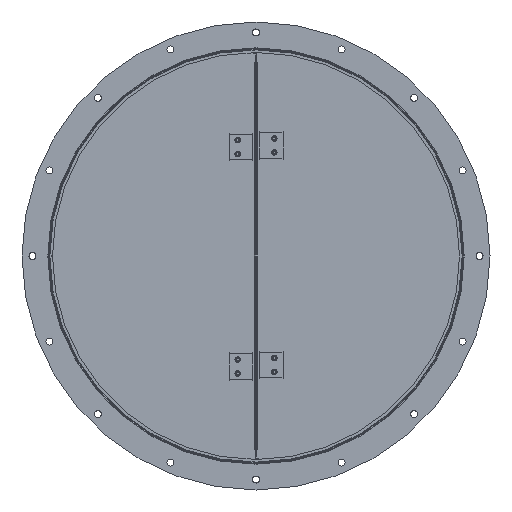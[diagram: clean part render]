
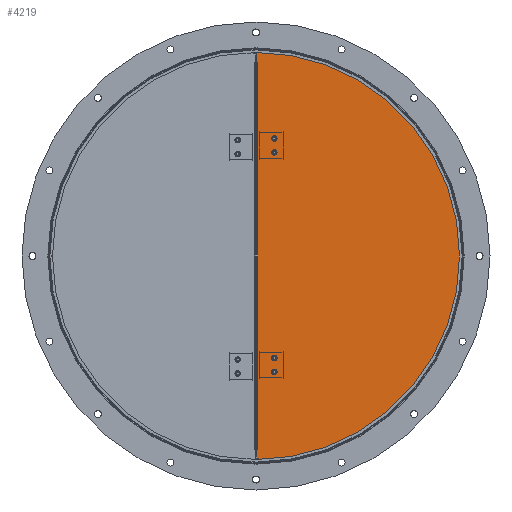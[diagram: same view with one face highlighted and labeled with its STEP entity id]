
A CAD part, left-side view. The second image highlights one B-rep face of the part: STEP entity #4219.
In plain terms, the highlighted planar face has unit normal (-1, 0, 0) as drawn and (0, 0, -1) by its records, which use the part's own axes.
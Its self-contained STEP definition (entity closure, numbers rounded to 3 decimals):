
#368=FACE_BOUND('',#1217,.T.);
#369=FACE_BOUND('',#1218,.T.);
#370=FACE_BOUND('',#1219,.T.);
#371=FACE_BOUND('',#1220,.T.);
#597=PLANE('',#5068);
#835=FACE_OUTER_BOUND('',#1216,.T.);
#1216=EDGE_LOOP('',(#3716,#3717,#3718,#3719,#3720,#3721,#3722,#3723,#3724,
#3725,#3726));
#1217=EDGE_LOOP('',(#3727));
#1218=EDGE_LOOP('',(#3728));
#1219=EDGE_LOOP('',(#3729));
#1220=EDGE_LOOP('',(#3730));
#1478=LINE('',#7846,#1695);
#1500=LINE('',#7909,#1717);
#1501=LINE('',#7912,#1718);
#1504=LINE('',#7919,#1721);
#1505=LINE('',#7924,#1722);
#1506=LINE('',#7926,#1723);
#1507=LINE('',#7929,#1724);
#1695=VECTOR('',#6156,10.);
#1717=VECTOR('',#6224,10.);
#1718=VECTOR('',#6227,10.);
#1721=VECTOR('',#6236,10.);
#1722=VECTOR('',#6241,10.);
#1723=VECTOR('',#6242,10.);
#1724=VECTOR('',#6245,10.);
#1925=CIRCLE('',#5030,5.);
#1934=CIRCLE('',#5047,2.6);
#1935=CIRCLE('',#5049,2.6);
#1936=CIRCLE('',#5051,2.6);
#1937=CIRCLE('',#5053,2.6);
#1942=CIRCLE('',#5066,0.05);
#1943=CIRCLE('',#5069,353.);
#1944=CIRCLE('',#5070,0.05);
#2250=VERTEX_POINT('',#7808);
#2252=VERTEX_POINT('',#7811);
#2267=VERTEX_POINT('',#7845);
#2280=VERTEX_POINT('',#7882);
#2281=VERTEX_POINT('',#7885);
#2282=VERTEX_POINT('',#7888);
#2283=VERTEX_POINT('',#7891);
#2284=VERTEX_POINT('',#7898);
#2285=VERTEX_POINT('',#7902);
#2286=VERTEX_POINT('',#7911);
#2287=VERTEX_POINT('',#7915);
#2288=VERTEX_POINT('',#7921);
#2289=VERTEX_POINT('',#7923);
#2290=VERTEX_POINT('',#7925);
#2291=VERTEX_POINT('',#7927);
#2731=EDGE_CURVE('',#2252,#2250,#1925,.T.);
#2748=EDGE_CURVE('',#2252,#2267,#1478,.T.);
#2766=EDGE_CURVE('',#2280,#2280,#1934,.T.);
#2767=EDGE_CURVE('',#2281,#2281,#1935,.T.);
#2768=EDGE_CURVE('',#2282,#2282,#1936,.T.);
#2769=EDGE_CURVE('',#2283,#2283,#1937,.T.);
#2778=EDGE_CURVE('',#2284,#2285,#1500,.T.);
#2779=EDGE_CURVE('',#2286,#2267,#1501,.T.);
#2781=EDGE_CURVE('',#2287,#2286,#1942,.T.);
#2783=EDGE_CURVE('',#2285,#2287,#1504,.T.);
#2784=EDGE_CURVE('',#2288,#2250,#1943,.T.);
#2785=EDGE_CURVE('',#2289,#2288,#1505,.T.);
#2786=EDGE_CURVE('',#2289,#2290,#1506,.T.);
#2787=EDGE_CURVE('',#2290,#2291,#1944,.T.);
#2788=EDGE_CURVE('',#2291,#2284,#1507,.T.);
#3716=ORIENTED_EDGE('',*,*,#2731,.T.);
#3717=ORIENTED_EDGE('',*,*,#2784,.F.);
#3718=ORIENTED_EDGE('',*,*,#2785,.F.);
#3719=ORIENTED_EDGE('',*,*,#2786,.T.);
#3720=ORIENTED_EDGE('',*,*,#2787,.T.);
#3721=ORIENTED_EDGE('',*,*,#2788,.T.);
#3722=ORIENTED_EDGE('',*,*,#2778,.T.);
#3723=ORIENTED_EDGE('',*,*,#2783,.T.);
#3724=ORIENTED_EDGE('',*,*,#2781,.T.);
#3725=ORIENTED_EDGE('',*,*,#2779,.T.);
#3726=ORIENTED_EDGE('',*,*,#2748,.F.);
#3727=ORIENTED_EDGE('',*,*,#2766,.T.);
#3728=ORIENTED_EDGE('',*,*,#2767,.T.);
#3729=ORIENTED_EDGE('',*,*,#2768,.T.);
#3730=ORIENTED_EDGE('',*,*,#2769,.T.);
#4219=ADVANCED_FACE('',(#835,#368,#369,#370,#371),#597,.F.);
#5030=AXIS2_PLACEMENT_3D('',#7812,#6126,#6127);
#5047=AXIS2_PLACEMENT_3D('',#7883,#6186,#6187);
#5049=AXIS2_PLACEMENT_3D('',#7886,#6190,#6191);
#5051=AXIS2_PLACEMENT_3D('',#7889,#6194,#6195);
#5053=AXIS2_PLACEMENT_3D('',#7892,#6198,#6199);
#5066=AXIS2_PLACEMENT_3D('',#7916,#6231,#6232);
#5068=AXIS2_PLACEMENT_3D('',#7920,#6237,#6238);
#5069=AXIS2_PLACEMENT_3D('',#7922,#6239,#6240);
#5070=AXIS2_PLACEMENT_3D('',#7928,#6243,#6244);
#6126=DIRECTION('center_axis',(0.,0.,1.));
#6127=DIRECTION('ref_axis',(1.,0.,0.));
#6156=DIRECTION('',(0.,-1.,0.));
#6186=DIRECTION('center_axis',(0.,0.,1.));
#6187=DIRECTION('ref_axis',(1.,0.,0.));
#6190=DIRECTION('center_axis',(0.,0.,1.));
#6191=DIRECTION('ref_axis',(1.,0.,0.));
#6194=DIRECTION('center_axis',(0.,0.,1.));
#6195=DIRECTION('ref_axis',(1.,0.,0.));
#6198=DIRECTION('center_axis',(0.,0.,1.));
#6199=DIRECTION('ref_axis',(1.,0.,0.));
#6224=DIRECTION('',(0.,1.,0.));
#6227=DIRECTION('',(-1.,0.,0.));
#6231=DIRECTION('center_axis',(0.,0.,1.));
#6232=DIRECTION('ref_axis',(0.,-1.,0.));
#6236=DIRECTION('',(1.,0.,0.));
#6237=DIRECTION('center_axis',(0.,0.,1.));
#6238=DIRECTION('ref_axis',(1.,0.,0.));
#6239=DIRECTION('center_axis',(0.,0.,1.));
#6240=DIRECTION('ref_axis',(0.003,-1.,0.));
#6241=DIRECTION('',(0.,-1.,0.));
#6242=DIRECTION('',(1.,0.,0.));
#6243=DIRECTION('center_axis',(0.,0.,1.));
#6244=DIRECTION('ref_axis',(0.,1.,0.));
#6245=DIRECTION('',(-1.,0.,0.));
#7808=CARTESIAN_POINT('',(6.,352.949,0.));
#7811=CARTESIAN_POINT('',(1.,347.999,0.));
#7812=CARTESIAN_POINT('Origin',(1.,352.999,0.));
#7845=CARTESIAN_POINT('',(1.,333.099,0.));
#7846=CARTESIAN_POINT('',(1.,352.999,0.));
#7882=CARTESIAN_POINT('',(28.4,175.7,0.));
#7883=CARTESIAN_POINT('Origin',(31.,175.7,0.));
#7885=CARTESIAN_POINT('',(28.4,199.7,0.));
#7886=CARTESIAN_POINT('Origin',(31.,199.7,0.));
#7888=CARTESIAN_POINT('',(28.4,-202.4,0.));
#7889=CARTESIAN_POINT('Origin',(31.,-202.4,0.));
#7891=CARTESIAN_POINT('',(28.4,-178.4,0.));
#7892=CARTESIAN_POINT('Origin',(31.,-178.4,0.));
#7898=CARTESIAN_POINT('',(2.5,-332.999,0.));
#7902=CARTESIAN_POINT('',(2.5,332.999,0.));
#7909=CARTESIAN_POINT('',(2.5,166.499,0.));
#7911=CARTESIAN_POINT('',(2.55,333.099,0.));
#7912=CARTESIAN_POINT('',(62.693,333.099,0.));
#7915=CARTESIAN_POINT('',(2.55,332.999,0.));
#7916=CARTESIAN_POINT('Origin',(2.55,333.049,0.));
#7919=CARTESIAN_POINT('',(63.468,332.999,0.));
#7920=CARTESIAN_POINT('Origin',(124.385,0.,
0.));
#7921=CARTESIAN_POINT('',(1.,-352.999,0.));
#7922=CARTESIAN_POINT('Origin',(0.,0.,0.));
#7923=CARTESIAN_POINT('',(1.,-333.099,0.));
#7924=CARTESIAN_POINT('',(1.,352.999,0.));
#7925=CARTESIAN_POINT('',(2.55,-333.099,0.));
#7926=CARTESIAN_POINT('',(63.468,-333.099,0.));
#7927=CARTESIAN_POINT('',(2.55,-332.999,0.));
#7928=CARTESIAN_POINT('Origin',(2.55,-333.049,0.));
#7929=CARTESIAN_POINT('',(62.693,-332.999,0.));
